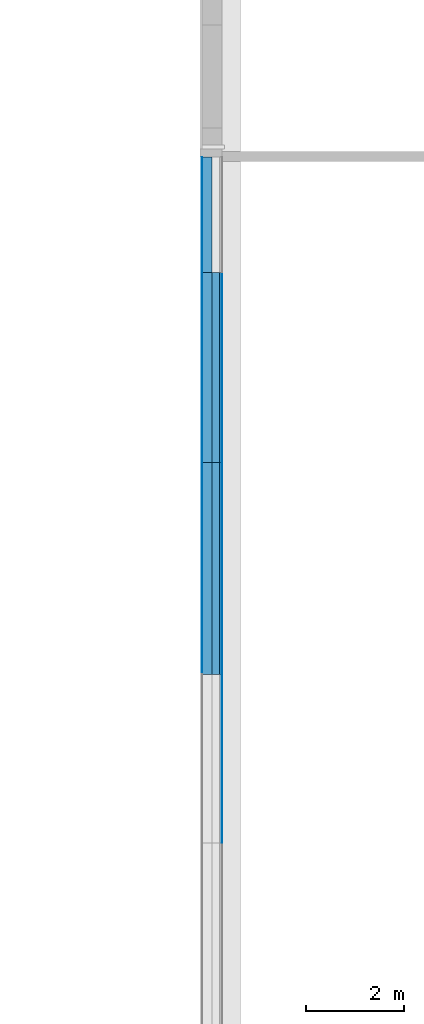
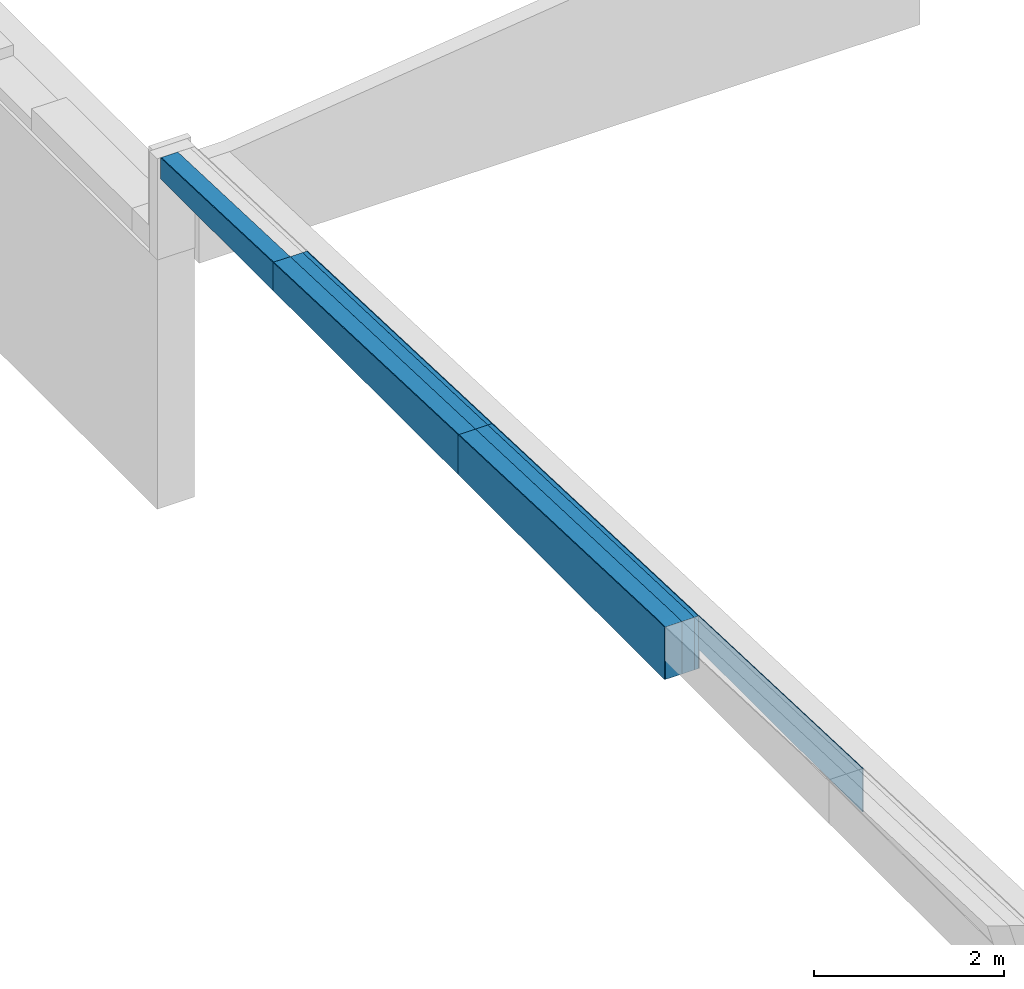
# One storey, part 14 of 17: 13 building element parts, 4 elements without a shape of their own.
"""IFC2X3 building model written with IfcOpenShell, lengths in millimetres."""

from ifc_helpers import new_model, entity, si_unit, converted_unit, derived_unit, money_unit, direction, frame, origin_with_axes, place, context, subcontext, project, spatial, polyline, outline, extrude, boolean, faceted_brep, material, type_object, element, aggregate, save


model = new_model("IFC2X3")

# Units and contexts
model_context = context("Model", 3, precision=0.01, world=origin_with_axes(), true_north=direction((0.0, 1.0)))
body_context = subcontext(model_context, "Body", "Model", "MODEL_VIEW")
ifc_project = project(units=[si_unit("LENGTHUNIT", "METRE", prefix="MILLI"), si_unit("AREAUNIT", "SQUARE_METRE"), si_unit("VOLUMEUNIT", "CUBIC_METRE"), converted_unit("PLANEANGLEUNIT", "DEGREE", entity("IfcPlaneAngleMeasure", 0.0174532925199), si_unit("PLANEANGLEUNIT", "RADIAN"), dimensions=[0, 0, 0, 0, 0, 0, 0]), si_unit("SOLIDANGLEUNIT", "STERADIAN"), money_unit("EUR"), converted_unit("TIMEUNIT", "Year", entity("IfcTimeMeasure", 31556926.0), si_unit("TIMEUNIT", "SECOND"), dimensions=[0, 0, 1, 0, 0, 0, 0]), si_unit("MASSUNIT", "GRAM", prefix="KILO"), si_unit("THERMODYNAMICTEMPERATUREUNIT", "DEGREE_CELSIUS"), si_unit("LUMINOUSINTENSITYUNIT", "LUMEN"), si_unit("ENERGYUNIT", "JOULE", prefix="MEGA"), derived_unit("THERMALCONDUCTANCEUNIT", [(si_unit("POWERUNIT", "WATT"), 1), (si_unit("LENGTHUNIT", "METRE"), -1), (si_unit("THERMODYNAMICTEMPERATUREUNIT", "KELVIN"), -1)]), derived_unit("SPECIFICHEATCAPACITYUNIT", [(si_unit("ENERGYUNIT", "JOULE"), 1), (si_unit("MASSUNIT", "GRAM", prefix="KILO"), -1), (si_unit("THERMODYNAMICTEMPERATUREUNIT", "KELVIN"), -1)]), derived_unit("MASSDENSITYUNIT", [(si_unit("MASSUNIT", "GRAM", prefix="KILO"), 1), (si_unit("VOLUMEUNIT", "CUBIC_METRE"), -1)])], contexts=[model_context])

# Site, building, storey
site_placement = place(None, origin_with_axes())
site = spatial("IfcSite", under=ifc_project, at=site_placement, Name="Puškini 31, Narva", CompositionType="ELEMENT")
building_placement = place(site_placement, origin_with_axes())
building = spatial("IfcBuilding", under=site, at=building_placement, Name="Narva Riigigümnaasium", CompositionType="ELEMENT")
storey_placement = place(building_placement, frame((0.0, 0.0, -6800.0), z_axis=(0.0, 0.0, 1.0), x_axis=(1.0, 0.0, 0.0)))
storey = spatial("IfcBuildingStorey", under=building, at=storey_placement, Name="0.korrus -6.8", CompositionType="ELEMENT", Elevation=-6800.0)

# Wall, building element part
wall_type = type_object("IfcWallType", Name="G-VS-02 420", PredefinedType="NOTDEFINED")
wall_1_placement = place(storey_placement, frame((54200.000001, 184040.0, 4630.0), z_axis=(0.0, 0.0, 1.0), x_axis=(0.0, -1.0, 0.0)))
wall_1 = element("IfcWall", 1, at=wall_1_placement, inside=storey, type_object=wall_type, Name="Sisesein")
ifc_material_1 = material(Name="Krohv")
building_element_part_1_placement = place(wall_1_placement, origin_with_axes())
building_element_part_1 = element("IfcBuildingElementPart", 2, at=building_element_part_1_placement, material=ifc_material_1, Name="Krohv", context=body_context, shape_type="CSG", body=[
    boolean("DIFFERENCE", boolean("DIFFERENCE", boolean("DIFFERENCE", boolean("DIFFERENCE", boolean("DIFFERENCE", extrude(outline(polyline([(0.0, 200.0), (3454.84872819, 200.0), (3454.84872819, 210.0), (0.0, 210.0), (0.0, 200.0)])), origin_with_axes(), (0.0, 0.0, 1.0), 577.017657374), faceted_brep([(3454.84872819, -200.0, 540.0), (2926.61023797, -200.0, 540.0), (0.0, -200.0, 427.970114), (0.0, -200.0, 577.017657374), (3454.84872819, -200.0, 577.017657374), (3454.84872819, -210.0, 540.0), (2926.61023797, -210.0, 540.0), (0.0, -210.0, 427.970114), (0.0, -210.0, 577.017657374), (3454.84872819, -210.0, 577.017657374)], [[[0, 1, 2, 3, 4]], [[1, 0, 5, 6]], [[7, 2, 1, 6]], [[2, 7, 8, 3]], [[3, 8, 9, 4]], [[5, 0, 4, 9]], [[6, 5, 9, 8, 7]]])), faceted_brep([(3454.84872819, 0.0, 560.220833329), (0.0, 0.0, 427.970114), (0.0, 0.0, 577.017657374), (3454.84872819, 0.0, 577.017657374), (0.0, -200.0, 427.970114), (3454.84872819, -200.0, 560.220833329), (2926.61023797, -200.0, 540.0), (0.0, -200.0, 577.017657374), (3454.84872819, -200.0, 577.017657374)], [[[0, 1, 2, 3]], [[4, 1, 0, 5, 6]], [[1, 4, 7, 2]], [[2, 7, 8, 3]], [[5, 0, 3, 8]], [[6, 5, 8, 7, 4]]])), faceted_brep([(3454.84872819, 150.0, 560.220833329), (0.0, 150.0, 427.970114), (0.0, 150.0, 577.017657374), (3454.84872819, 150.0, 577.017657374), (0.0, 0.0, 427.970114), (3454.84872819, 0.0, 560.220833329), (0.0, 0.0, 577.017657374), (3454.84872819, 0.0, 577.017657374)], [[[0, 1, 2, 3]], [[4, 1, 0, 5]], [[1, 4, 6, 2]], [[2, 6, 7, 3]], [[5, 0, 3, 7]], [[4, 5, 7, 6]]])), faceted_brep([(3454.84872819, 200.0, 560.220833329), (0.0, 200.0, 427.970114), (0.0, 200.0, 577.017657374), (3454.84872819, 200.0, 577.017657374), (0.0, 150.0, 427.970114), (3454.84872819, 150.0, 560.220833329), (0.0, 150.0, 577.017657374), (3454.84872819, 150.0, 577.017657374)], [[[0, 1, 2, 3]], [[4, 1, 0, 5]], [[1, 4, 6, 2]], [[2, 6, 7, 3]], [[5, 0, 3, 7]], [[4, 5, 7, 6]]])), faceted_brep([(3454.84872819, 210.0, 560.220833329), (0.0, 210.0, 427.970114), (0.0, 210.0, 577.017657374), (3454.84872819, 210.0, 577.017657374), (0.0, 200.0, 427.970114), (3454.84872819, 200.0, 560.220833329), (0.0, 200.0, 577.017657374), (3454.84872819, 200.0, 577.017657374)], [[[0, 1, 2, 3]], [[4, 1, 0, 5]], [[1, 4, 6, 2]], [[2, 6, 7, 3]], [[5, 0, 3, 7]], [[4, 5, 7, 6]]])),
])
aggregate(wall_1, [building_element_part_1])

# Wall, building element parts
wall_2_placement = place(storey_placement, frame((54200.000001, 188385.151272, 4380.0), z_axis=(0.0, 0.0, 1.0), x_axis=(0.0, -1.0, 0.0)))
wall_2 = element("IfcWall", 3, at=wall_2_placement, inside=storey, type_object=wall_type, Name="Sisesein")
ifc_material_2 = material(Name="Salto-siseviimistlus")
building_element_part_2_placement = place(wall_2_placement, origin_with_axes())
building_element_part_2 = element("IfcBuildingElementPart", 4, at=building_element_part_2_placement, material=ifc_material_2, Name="Salto-siseviimistlus", context=body_context, shape_type="CSG", body=[
    boolean("DIFFERENCE", boolean("DIFFERENCE", boolean("DIFFERENCE", boolean("DIFFERENCE", boolean("DIFFERENCE", extrude(outline(polyline([(0.0, -210.0), (4345.15127181, -210.0), (4345.15127181, -200.0), (0.0, -200.0), (0.0, -210.0)])), origin_with_axes(), (0.0, 0.0, 1.0), 673.142455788), faceted_brep([(4219.03604978, -200.0, 673.142455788), (0.0, -200.0, 511.638842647), (0.0, -200.0, 673.142455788), (0.0, -210.0, 511.638842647), (4219.03604978, -210.0, 673.142455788), (0.0, -210.0, 673.142455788)], [[[0, 1, 2]], [[3, 1, 0, 4]], [[1, 3, 5, 2]], [[4, 0, 2, 5]], [[3, 4, 5]]])), faceted_brep([(4219.03604978, 0.0, 673.142455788), (0.0, 0.0, 511.638842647), (0.0, 0.0, 673.142455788), (0.0, -200.0, 511.638842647), (4219.03604978, -200.0, 673.142455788), (0.0, -200.0, 673.142455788)], [[[0, 1, 2]], [[3, 1, 0, 4]], [[1, 3, 5, 2]], [[4, 0, 2, 5]], [[3, 4, 5]]])), faceted_brep([(4219.03604978, 150.0, 673.142455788), (0.0, 150.0, 511.638842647), (0.0, 150.0, 673.142455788), (0.0, 0.0, 511.638842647), (4219.03604978, 0.0, 673.142455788), (0.0, 0.0, 673.142455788)], [[[0, 1, 2]], [[3, 1, 0, 4]], [[1, 3, 5, 2]], [[4, 0, 2, 5]], [[3, 4, 5]]])), faceted_brep([(4219.03604978, 200.0, 673.142455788), (0.0, 200.0, 511.638842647), (0.0, 200.0, 673.142455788), (0.0, 150.0, 511.638842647), (4219.03604978, 150.0, 673.142455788), (0.0, 150.0, 673.142455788)], [[[0, 1, 2]], [[3, 1, 0, 4]], [[1, 3, 5, 2]], [[4, 0, 2, 5]], [[3, 4, 5]]])), faceted_brep([(4219.03604978, 210.0, 673.142455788), (0.0, 210.0, 511.638842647), (0.0, 210.0, 673.142455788), (0.0, 200.0, 511.638842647), (4219.03604978, 200.0, 673.142455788), (0.0, 200.0, 673.142455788)], [[[0, 1, 2]], [[3, 1, 0, 4]], [[1, 3, 5, 2]], [[4, 0, 2, 5]], [[3, 4, 5]]])),
])
ifc_material_3 = material(Name="Betoon element")
building_element_part_3_placement = place(wall_2_placement, origin_with_axes())
building_element_part_3 = element("IfcBuildingElementPart", 5, at=building_element_part_3_placement, material=ifc_material_3, Name="Betoon element", context=body_context, shape_type="CSG", body=[
    boolean("DIFFERENCE", boolean("DIFFERENCE", boolean("DIFFERENCE", boolean("DIFFERENCE", boolean("DIFFERENCE", extrude(outline(polyline([(0.0, -200.0), (4345.15127181, -200.0), (4345.15127181, 0.0), (0.0, 0.0), (0.0, -200.0)])), origin_with_axes(), (0.0, 0.0, 1.0), 673.142455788), faceted_brep([(4219.03604978, -200.0, 673.142455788), (0.0, -200.0, 511.638842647), (0.0, -200.0, 673.142455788), (0.0, -210.0, 511.638842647), (4219.03604978, -210.0, 673.142455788), (0.0, -210.0, 673.142455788)], [[[0, 1, 2]], [[3, 1, 0, 4]], [[1, 3, 5, 2]], [[4, 0, 2, 5]], [[3, 4, 5]]])), faceted_brep([(4219.03604978, 0.0, 673.142455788), (0.0, 0.0, 511.638842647), (0.0, 0.0, 673.142455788), (0.0, -200.0, 511.638842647), (4219.03604978, -200.0, 673.142455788), (0.0, -200.0, 673.142455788)], [[[0, 1, 2]], [[3, 1, 0, 4]], [[1, 3, 5, 2]], [[4, 0, 2, 5]], [[3, 4, 5]]])), faceted_brep([(4219.03604978, 150.0, 673.142455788), (0.0, 150.0, 511.638842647), (0.0, 150.0, 673.142455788), (0.0, 0.0, 511.638842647), (4219.03604978, 0.0, 673.142455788), (0.0, 0.0, 673.142455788)], [[[0, 1, 2]], [[3, 1, 0, 4]], [[1, 3, 5, 2]], [[4, 0, 2, 5]], [[3, 4, 5]]])), faceted_brep([(4219.03604978, 200.0, 673.142455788), (0.0, 200.0, 511.638842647), (0.0, 200.0, 673.142455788), (0.0, 150.0, 511.638842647), (4219.03604978, 150.0, 673.142455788), (0.0, 150.0, 673.142455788)], [[[0, 1, 2]], [[3, 1, 0, 4]], [[1, 3, 5, 2]], [[4, 0, 2, 5]], [[3, 4, 5]]])), faceted_brep([(4219.03604978, 210.0, 673.142455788), (0.0, 210.0, 511.638842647), (0.0, 210.0, 673.142455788), (0.0, 200.0, 511.638842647), (4219.03604978, 200.0, 673.142455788), (0.0, 200.0, 673.142455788)], [[[0, 1, 2]], [[3, 1, 0, 4]], [[1, 3, 5, 2]], [[4, 0, 2, 5]], [[3, 4, 5]]])),
])
ifc_material_4 = material(Name="Salto-PIR soojustus")
building_element_part_4_placement = place(wall_2_placement, origin_with_axes())
building_element_part_4 = element("IfcBuildingElementPart", 6, at=building_element_part_4_placement, material=ifc_material_4, Name="Salto-PIR soojustus", context=body_context, shape_type="CSG", body=[
    boolean("DIFFERENCE", boolean("DIFFERENCE", boolean("DIFFERENCE", boolean("DIFFERENCE", boolean("DIFFERENCE", extrude(outline(polyline([(0.0, 0.0), (4345.15127181, 0.0), (4345.15127181, 150.0), (0.0, 150.0), (0.0, 0.0)])), origin_with_axes(), (0.0, 0.0, 1.0), 673.142455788), faceted_brep([(4219.03604978, -200.0, 673.142455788), (0.0, -200.0, 511.638842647), (0.0, -200.0, 673.142455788), (0.0, -210.0, 511.638842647), (4219.03604978, -210.0, 673.142455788), (0.0, -210.0, 673.142455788)], [[[0, 1, 2]], [[3, 1, 0, 4]], [[1, 3, 5, 2]], [[4, 0, 2, 5]], [[3, 4, 5]]])), faceted_brep([(4219.03604978, 0.0, 673.142455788), (0.0, 0.0, 511.638842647), (0.0, 0.0, 673.142455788), (0.0, -200.0, 511.638842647), (4219.03604978, -200.0, 673.142455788), (0.0, -200.0, 673.142455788)], [[[0, 1, 2]], [[3, 1, 0, 4]], [[1, 3, 5, 2]], [[4, 0, 2, 5]], [[3, 4, 5]]])), faceted_brep([(4219.03604978, 150.0, 673.142455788), (0.0, 150.0, 511.638842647), (0.0, 150.0, 673.142455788), (0.0, 0.0, 511.638842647), (4219.03604978, 0.0, 673.142455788), (0.0, 0.0, 673.142455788)], [[[0, 1, 2]], [[3, 1, 0, 4]], [[1, 3, 5, 2]], [[4, 0, 2, 5]], [[3, 4, 5]]])), faceted_brep([(4219.03604978, 200.0, 673.142455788), (0.0, 200.0, 511.638842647), (0.0, 200.0, 673.142455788), (0.0, 150.0, 511.638842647), (4219.03604978, 150.0, 673.142455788), (0.0, 150.0, 673.142455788)], [[[0, 1, 2]], [[3, 1, 0, 4]], [[1, 3, 5, 2]], [[4, 0, 2, 5]], [[3, 4, 5]]])), faceted_brep([(4219.03604978, 210.0, 673.142455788), (0.0, 210.0, 511.638842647), (0.0, 210.0, 673.142455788), (0.0, 200.0, 511.638842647), (4219.03604978, 200.0, 673.142455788), (0.0, 200.0, 673.142455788)], [[[0, 1, 2]], [[3, 1, 0, 4]], [[1, 3, 5, 2]], [[4, 0, 2, 5]], [[3, 4, 5]]])),
])
building_element_part_5_placement = place(wall_2_placement, origin_with_axes())
building_element_part_5 = element("IfcBuildingElementPart", 7, at=building_element_part_5_placement, material=ifc_material_4, Name="Salto-PIR soojustus", context=body_context, shape_type="CSG", body=[
    boolean("DIFFERENCE", boolean("DIFFERENCE", boolean("DIFFERENCE", boolean("DIFFERENCE", boolean("DIFFERENCE", extrude(outline(polyline([(0.0, 150.0), (4345.15127181, 150.0), (4345.15127181, 200.0), (0.0, 200.0), (0.0, 150.0)])), origin_with_axes(), (0.0, 0.0, 1.0), 673.142455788), faceted_brep([(4219.03604978, -200.0, 673.142455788), (0.0, -200.0, 511.638842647), (0.0, -200.0, 673.142455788), (0.0, -210.0, 511.638842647), (4219.03604978, -210.0, 673.142455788), (0.0, -210.0, 673.142455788)], [[[0, 1, 2]], [[3, 1, 0, 4]], [[1, 3, 5, 2]], [[4, 0, 2, 5]], [[3, 4, 5]]])), faceted_brep([(4219.03604978, 0.0, 673.142455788), (0.0, 0.0, 511.638842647), (0.0, 0.0, 673.142455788), (0.0, -200.0, 511.638842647), (4219.03604978, -200.0, 673.142455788), (0.0, -200.0, 673.142455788)], [[[0, 1, 2]], [[3, 1, 0, 4]], [[1, 3, 5, 2]], [[4, 0, 2, 5]], [[3, 4, 5]]])), faceted_brep([(4219.03604978, 150.0, 673.142455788), (0.0, 150.0, 511.638842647), (0.0, 150.0, 673.142455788), (0.0, 0.0, 511.638842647), (4219.03604978, 0.0, 673.142455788), (0.0, 0.0, 673.142455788)], [[[0, 1, 2]], [[3, 1, 0, 4]], [[1, 3, 5, 2]], [[4, 0, 2, 5]], [[3, 4, 5]]])), faceted_brep([(4219.03604978, 200.0, 673.142455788), (0.0, 200.0, 511.638842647), (0.0, 200.0, 673.142455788), (0.0, 150.0, 511.638842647), (4219.03604978, 150.0, 673.142455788), (0.0, 150.0, 673.142455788)], [[[0, 1, 2]], [[3, 1, 0, 4]], [[1, 3, 5, 2]], [[4, 0, 2, 5]], [[3, 4, 5]]])), faceted_brep([(4219.03604978, 210.0, 673.142455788), (0.0, 210.0, 511.638842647), (0.0, 210.0, 673.142455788), (0.0, 200.0, 511.638842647), (4219.03604978, 200.0, 673.142455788), (0.0, 200.0, 673.142455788)], [[[0, 1, 2]], [[3, 1, 0, 4]], [[1, 3, 5, 2]], [[4, 0, 2, 5]], [[3, 4, 5]]])),
])
building_element_part_6_placement = place(wall_2_placement, origin_with_axes())
building_element_part_6 = element("IfcBuildingElementPart", 8, at=building_element_part_6_placement, material=ifc_material_1, Name="Krohv", context=body_context, shape_type="CSG", body=[
    boolean("DIFFERENCE", boolean("DIFFERENCE", boolean("DIFFERENCE", boolean("DIFFERENCE", boolean("DIFFERENCE", extrude(outline(polyline([(0.0, 200.0), (4345.15127181, 200.0), (4345.15127181, 210.0), (0.0, 210.0), (0.0, 200.0)])), origin_with_axes(), (0.0, 0.0, 1.0), 673.142455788), faceted_brep([(4219.03604978, -200.0, 673.142455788), (0.0, -200.0, 511.638842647), (0.0, -200.0, 673.142455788), (0.0, -210.0, 511.638842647), (4219.03604978, -210.0, 673.142455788), (0.0, -210.0, 673.142455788)], [[[0, 1, 2]], [[3, 1, 0, 4]], [[1, 3, 5, 2]], [[4, 0, 2, 5]], [[3, 4, 5]]])), faceted_brep([(4219.03604978, 0.0, 673.142455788), (0.0, 0.0, 511.638842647), (0.0, 0.0, 673.142455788), (0.0, -200.0, 511.638842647), (4219.03604978, -200.0, 673.142455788), (0.0, -200.0, 673.142455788)], [[[0, 1, 2]], [[3, 1, 0, 4]], [[1, 3, 5, 2]], [[4, 0, 2, 5]], [[3, 4, 5]]])), faceted_brep([(4219.03604978, 150.0, 673.142455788), (0.0, 150.0, 511.638842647), (0.0, 150.0, 673.142455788), (0.0, 0.0, 511.638842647), (4219.03604978, 0.0, 673.142455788), (0.0, 0.0, 673.142455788)], [[[0, 1, 2]], [[3, 1, 0, 4]], [[1, 3, 5, 2]], [[4, 0, 2, 5]], [[3, 4, 5]]])), faceted_brep([(4219.03604978, 200.0, 673.142455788), (0.0, 200.0, 511.638842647), (0.0, 200.0, 673.142455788), (0.0, 150.0, 511.638842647), (4219.03604978, 150.0, 673.142455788), (0.0, 150.0, 673.142455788)], [[[0, 1, 2]], [[3, 1, 0, 4]], [[1, 3, 5, 2]], [[4, 0, 2, 5]], [[3, 4, 5]]])), faceted_brep([(4219.03604978, 210.0, 673.142455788), (0.0, 210.0, 511.638842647), (0.0, 210.0, 673.142455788), (0.0, 200.0, 511.638842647), (4219.03604978, 200.0, 673.142455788), (0.0, 200.0, 673.142455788)], [[[0, 1, 2]], [[3, 1, 0, 4]], [[1, 3, 5, 2]], [[4, 0, 2, 5]], [[3, 4, 5]]])),
])
aggregate(wall_2, [building_element_part_2, building_element_part_3, building_element_part_4, building_element_part_5, building_element_part_6])

wall_3_placement = place(storey_placement, frame((54200.000001, 192285.151272, 4380.0), z_axis=(0.0, 0.0, 1.0), x_axis=(0.0, -1.0, 0.0)))
wall_3 = element("IfcWall", 9, at=wall_3_placement, inside=storey, type_object=wall_type, Name="Sisesein")
building_element_part_7_placement = place(wall_3_placement, origin_with_axes())
building_element_part_7 = element("IfcBuildingElementPart", 10, at=building_element_part_7_placement, material=ifc_material_2, Name="Salto-siseviimistlus", context=body_context, shape_type="CSG", body=[
    boolean("DIFFERENCE", boolean("DIFFERENCE", boolean("DIFFERENCE", boolean("DIFFERENCE", boolean("DIFFERENCE", extrude(outline(polyline([(0.0, -210.0), (3900.0, -210.0), (3900.0, -200.0), (0.0, -200.0), (0.0, -210.0)])), origin_with_axes(), (0.0, 0.0, 1.0), 519.267254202), faceted_brep([(3900.0, -200.0, 511.638842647), (0.0, -200.0, 362.347847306), (0.0, -200.0, 519.267254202), (3900.0, -200.0, 519.267254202), (0.0, -210.0, 362.347847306), (3900.0, -210.0, 511.638842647), (0.0, -210.0, 519.267254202), (3900.0, -210.0, 519.267254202)], [[[0, 1, 2, 3]], [[4, 1, 0, 5]], [[1, 4, 6, 2]], [[2, 6, 7, 3]], [[5, 0, 3, 7]], [[4, 5, 7, 6]]])), faceted_brep([(3900.0, 0.0, 511.638842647), (0.0, 0.0, 362.347847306), (0.0, 0.0, 519.267254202), (3900.0, 0.0, 519.267254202), (0.0, -200.0, 362.347847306), (3900.0, -200.0, 511.638842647), (0.0, -200.0, 519.267254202), (3900.0, -200.0, 519.267254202)], [[[0, 1, 2, 3]], [[4, 1, 0, 5]], [[1, 4, 6, 2]], [[2, 6, 7, 3]], [[5, 0, 3, 7]], [[4, 5, 7, 6]]])), faceted_brep([(3900.0, 150.0, 511.638842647), (0.0, 150.0, 362.347847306), (0.0, 150.0, 519.267254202), (3900.0, 150.0, 519.267254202), (0.0, 0.0, 362.347847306), (3900.0, 0.0, 511.638842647), (0.0, 0.0, 519.267254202), (3900.0, 0.0, 519.267254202)], [[[0, 1, 2, 3]], [[4, 1, 0, 5]], [[1, 4, 6, 2]], [[2, 6, 7, 3]], [[5, 0, 3, 7]], [[4, 5, 7, 6]]])), faceted_brep([(3900.0, 200.0, 511.638842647), (0.0, 200.0, 362.347847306), (0.0, 200.0, 519.267254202), (3900.0, 200.0, 519.267254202), (0.0, 150.0, 362.347847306), (3900.0, 150.0, 511.638842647), (0.0, 150.0, 519.267254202), (3900.0, 150.0, 519.267254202)], [[[0, 1, 2, 3]], [[4, 1, 0, 5]], [[1, 4, 6, 2]], [[2, 6, 7, 3]], [[5, 0, 3, 7]], [[4, 5, 7, 6]]])), faceted_brep([(3900.0, 210.0, 511.638842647), (0.0, 210.0, 362.347847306), (0.0, 210.0, 519.267254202), (3900.0, 210.0, 519.267254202), (0.0, 200.0, 362.347847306), (3900.0, 200.0, 511.638842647), (0.0, 200.0, 519.267254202), (3900.0, 200.0, 519.267254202)], [[[0, 1, 2, 3]], [[4, 1, 0, 5]], [[1, 4, 6, 2]], [[2, 6, 7, 3]], [[5, 0, 3, 7]], [[4, 5, 7, 6]]])),
])
building_element_part_8_placement = place(wall_3_placement, origin_with_axes())
building_element_part_8 = element("IfcBuildingElementPart", 11, at=building_element_part_8_placement, material=ifc_material_3, Name="Betoon element", context=body_context, shape_type="CSG", body=[
    boolean("DIFFERENCE", boolean("DIFFERENCE", boolean("DIFFERENCE", boolean("DIFFERENCE", boolean("DIFFERENCE", extrude(outline(polyline([(0.0, -200.0), (3900.0, -200.0), (3900.0, 0.0), (0.0, 0.0), (0.0, -200.0)])), origin_with_axes(), (0.0, 0.0, 1.0), 519.267254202), faceted_brep([(3900.0, -200.0, 511.638842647), (0.0, -200.0, 362.347847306), (0.0, -200.0, 519.267254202), (3900.0, -200.0, 519.267254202), (0.0, -210.0, 362.347847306), (3900.0, -210.0, 511.638842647), (0.0, -210.0, 519.267254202), (3900.0, -210.0, 519.267254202)], [[[0, 1, 2, 3]], [[4, 1, 0, 5]], [[1, 4, 6, 2]], [[2, 6, 7, 3]], [[5, 0, 3, 7]], [[4, 5, 7, 6]]])), faceted_brep([(3900.0, 0.0, 511.638842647), (0.0, 0.0, 362.347847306), (0.0, 0.0, 519.267254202), (3900.0, 0.0, 519.267254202), (0.0, -200.0, 362.347847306), (3900.0, -200.0, 511.638842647), (0.0, -200.0, 519.267254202), (3900.0, -200.0, 519.267254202)], [[[0, 1, 2, 3]], [[4, 1, 0, 5]], [[1, 4, 6, 2]], [[2, 6, 7, 3]], [[5, 0, 3, 7]], [[4, 5, 7, 6]]])), faceted_brep([(3900.0, 150.0, 511.638842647), (0.0, 150.0, 362.347847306), (0.0, 150.0, 519.267254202), (3900.0, 150.0, 519.267254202), (0.0, 0.0, 362.347847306), (3900.0, 0.0, 511.638842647), (0.0, 0.0, 519.267254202), (3900.0, 0.0, 519.267254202)], [[[0, 1, 2, 3]], [[4, 1, 0, 5]], [[1, 4, 6, 2]], [[2, 6, 7, 3]], [[5, 0, 3, 7]], [[4, 5, 7, 6]]])), faceted_brep([(3900.0, 200.0, 511.638842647), (0.0, 200.0, 362.347847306), (0.0, 200.0, 519.267254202), (3900.0, 200.0, 519.267254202), (0.0, 150.0, 362.347847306), (3900.0, 150.0, 511.638842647), (0.0, 150.0, 519.267254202), (3900.0, 150.0, 519.267254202)], [[[0, 1, 2, 3]], [[4, 1, 0, 5]], [[1, 4, 6, 2]], [[2, 6, 7, 3]], [[5, 0, 3, 7]], [[4, 5, 7, 6]]])), faceted_brep([(3900.0, 210.0, 511.638842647), (0.0, 210.0, 362.347847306), (0.0, 210.0, 519.267254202), (3900.0, 210.0, 519.267254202), (0.0, 200.0, 362.347847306), (3900.0, 200.0, 511.638842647), (0.0, 200.0, 519.267254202), (3900.0, 200.0, 519.267254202)], [[[0, 1, 2, 3]], [[4, 1, 0, 5]], [[1, 4, 6, 2]], [[2, 6, 7, 3]], [[5, 0, 3, 7]], [[4, 5, 7, 6]]])),
])
building_element_part_9_placement = place(wall_3_placement, origin_with_axes())
building_element_part_9 = element("IfcBuildingElementPart", 12, at=building_element_part_9_placement, material=ifc_material_4, Name="Salto-PIR soojustus", context=body_context, shape_type="CSG", body=[
    boolean("DIFFERENCE", boolean("DIFFERENCE", boolean("DIFFERENCE", boolean("DIFFERENCE", boolean("DIFFERENCE", extrude(outline(polyline([(0.0, 0.0), (3900.0, 0.0), (3900.0, 150.0), (0.0, 150.0), (0.0, 0.0)])), origin_with_axes(), (0.0, 0.0, 1.0), 519.267254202), faceted_brep([(3900.0, -200.0, 511.638842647), (0.0, -200.0, 362.347847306), (0.0, -200.0, 519.267254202), (3900.0, -200.0, 519.267254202), (0.0, -210.0, 362.347847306), (3900.0, -210.0, 511.638842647), (0.0, -210.0, 519.267254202), (3900.0, -210.0, 519.267254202)], [[[0, 1, 2, 3]], [[4, 1, 0, 5]], [[1, 4, 6, 2]], [[2, 6, 7, 3]], [[5, 0, 3, 7]], [[4, 5, 7, 6]]])), faceted_brep([(3900.0, 0.0, 511.638842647), (0.0, 0.0, 362.347847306), (0.0, 0.0, 519.267254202), (3900.0, 0.0, 519.267254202), (0.0, -200.0, 362.347847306), (3900.0, -200.0, 511.638842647), (0.0, -200.0, 519.267254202), (3900.0, -200.0, 519.267254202)], [[[0, 1, 2, 3]], [[4, 1, 0, 5]], [[1, 4, 6, 2]], [[2, 6, 7, 3]], [[5, 0, 3, 7]], [[4, 5, 7, 6]]])), faceted_brep([(3900.0, 150.0, 511.638842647), (0.0, 150.0, 362.347847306), (0.0, 150.0, 519.267254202), (3900.0, 150.0, 519.267254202), (0.0, 0.0, 362.347847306), (3900.0, 0.0, 511.638842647), (0.0, 0.0, 519.267254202), (3900.0, 0.0, 519.267254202)], [[[0, 1, 2, 3]], [[4, 1, 0, 5]], [[1, 4, 6, 2]], [[2, 6, 7, 3]], [[5, 0, 3, 7]], [[4, 5, 7, 6]]])), faceted_brep([(3900.0, 200.0, 511.638842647), (0.0, 200.0, 362.347847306), (0.0, 200.0, 519.267254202), (3900.0, 200.0, 519.267254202), (0.0, 150.0, 362.347847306), (3900.0, 150.0, 511.638842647), (0.0, 150.0, 519.267254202), (3900.0, 150.0, 519.267254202)], [[[0, 1, 2, 3]], [[4, 1, 0, 5]], [[1, 4, 6, 2]], [[2, 6, 7, 3]], [[5, 0, 3, 7]], [[4, 5, 7, 6]]])), faceted_brep([(3900.0, 210.0, 511.638842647), (0.0, 210.0, 362.347847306), (0.0, 210.0, 519.267254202), (3900.0, 210.0, 519.267254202), (0.0, 200.0, 362.347847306), (3900.0, 200.0, 511.638842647), (0.0, 200.0, 519.267254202), (3900.0, 200.0, 519.267254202)], [[[0, 1, 2, 3]], [[4, 1, 0, 5]], [[1, 4, 6, 2]], [[2, 6, 7, 3]], [[5, 0, 3, 7]], [[4, 5, 7, 6]]])),
])
building_element_part_10_placement = place(wall_3_placement, origin_with_axes())
building_element_part_10 = element("IfcBuildingElementPart", 13, at=building_element_part_10_placement, material=ifc_material_4, Name="Salto-PIR soojustus", context=body_context, shape_type="CSG", body=[
    boolean("DIFFERENCE", boolean("DIFFERENCE", boolean("DIFFERENCE", boolean("DIFFERENCE", boolean("DIFFERENCE", extrude(outline(polyline([(0.0, 150.0), (3900.0, 150.0), (3900.0, 200.0), (0.0, 200.0), (0.0, 150.0)])), origin_with_axes(), (0.0, 0.0, 1.0), 519.267254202), faceted_brep([(3900.0, -200.0, 511.638842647), (0.0, -200.0, 362.347847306), (0.0, -200.0, 519.267254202), (3900.0, -200.0, 519.267254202), (0.0, -210.0, 362.347847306), (3900.0, -210.0, 511.638842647), (0.0, -210.0, 519.267254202), (3900.0, -210.0, 519.267254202)], [[[0, 1, 2, 3]], [[4, 1, 0, 5]], [[1, 4, 6, 2]], [[2, 6, 7, 3]], [[5, 0, 3, 7]], [[4, 5, 7, 6]]])), faceted_brep([(3900.0, 0.0, 511.638842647), (0.0, 0.0, 362.347847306), (0.0, 0.0, 519.267254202), (3900.0, 0.0, 519.267254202), (0.0, -200.0, 362.347847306), (3900.0, -200.0, 511.638842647), (0.0, -200.0, 519.267254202), (3900.0, -200.0, 519.267254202)], [[[0, 1, 2, 3]], [[4, 1, 0, 5]], [[1, 4, 6, 2]], [[2, 6, 7, 3]], [[5, 0, 3, 7]], [[4, 5, 7, 6]]])), faceted_brep([(3900.0, 150.0, 511.638842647), (0.0, 150.0, 362.347847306), (0.0, 150.0, 519.267254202), (3900.0, 150.0, 519.267254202), (0.0, 0.0, 362.347847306), (3900.0, 0.0, 511.638842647), (0.0, 0.0, 519.267254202), (3900.0, 0.0, 519.267254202)], [[[0, 1, 2, 3]], [[4, 1, 0, 5]], [[1, 4, 6, 2]], [[2, 6, 7, 3]], [[5, 0, 3, 7]], [[4, 5, 7, 6]]])), faceted_brep([(3900.0, 200.0, 511.638842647), (0.0, 200.0, 362.347847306), (0.0, 200.0, 519.267254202), (3900.0, 200.0, 519.267254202), (0.0, 150.0, 362.347847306), (3900.0, 150.0, 511.638842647), (0.0, 150.0, 519.267254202), (3900.0, 150.0, 519.267254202)], [[[0, 1, 2, 3]], [[4, 1, 0, 5]], [[1, 4, 6, 2]], [[2, 6, 7, 3]], [[5, 0, 3, 7]], [[4, 5, 7, 6]]])), faceted_brep([(3900.0, 210.0, 511.638842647), (0.0, 210.0, 362.347847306), (0.0, 210.0, 519.267254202), (3900.0, 210.0, 519.267254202), (0.0, 200.0, 362.347847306), (3900.0, 200.0, 511.638842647), (0.0, 200.0, 519.267254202), (3900.0, 200.0, 519.267254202)], [[[0, 1, 2, 3]], [[4, 1, 0, 5]], [[1, 4, 6, 2]], [[2, 6, 7, 3]], [[5, 0, 3, 7]], [[4, 5, 7, 6]]])),
])
building_element_part_11_placement = place(wall_3_placement, origin_with_axes())
building_element_part_11 = element("IfcBuildingElementPart", 14, at=building_element_part_11_placement, material=ifc_material_1, Name="Krohv", context=body_context, shape_type="CSG", body=[
    boolean("DIFFERENCE", boolean("DIFFERENCE", boolean("DIFFERENCE", boolean("DIFFERENCE", boolean("DIFFERENCE", extrude(outline(polyline([(0.0, 200.0), (3900.0, 200.0), (3900.0, 210.0), (0.0, 210.0), (0.0, 200.0)])), origin_with_axes(), (0.0, 0.0, 1.0), 519.267254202), faceted_brep([(3900.0, -200.0, 511.638842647), (0.0, -200.0, 362.347847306), (0.0, -200.0, 519.267254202), (3900.0, -200.0, 519.267254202), (0.0, -210.0, 362.347847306), (3900.0, -210.0, 511.638842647), (0.0, -210.0, 519.267254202), (3900.0, -210.0, 519.267254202)], [[[0, 1, 2, 3]], [[4, 1, 0, 5]], [[1, 4, 6, 2]], [[2, 6, 7, 3]], [[5, 0, 3, 7]], [[4, 5, 7, 6]]])), faceted_brep([(3900.0, 0.0, 511.638842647), (0.0, 0.0, 362.347847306), (0.0, 0.0, 519.267254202), (3900.0, 0.0, 519.267254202), (0.0, -200.0, 362.347847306), (3900.0, -200.0, 511.638842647), (0.0, -200.0, 519.267254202), (3900.0, -200.0, 519.267254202)], [[[0, 1, 2, 3]], [[4, 1, 0, 5]], [[1, 4, 6, 2]], [[2, 6, 7, 3]], [[5, 0, 3, 7]], [[4, 5, 7, 6]]])), faceted_brep([(3900.0, 150.0, 511.638842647), (0.0, 150.0, 362.347847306), (0.0, 150.0, 519.267254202), (3900.0, 150.0, 519.267254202), (0.0, 0.0, 362.347847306), (3900.0, 0.0, 511.638842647), (0.0, 0.0, 519.267254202), (3900.0, 0.0, 519.267254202)], [[[0, 1, 2, 3]], [[4, 1, 0, 5]], [[1, 4, 6, 2]], [[2, 6, 7, 3]], [[5, 0, 3, 7]], [[4, 5, 7, 6]]])), faceted_brep([(3900.0, 200.0, 511.638842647), (0.0, 200.0, 362.347847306), (0.0, 200.0, 519.267254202), (3900.0, 200.0, 519.267254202), (0.0, 150.0, 362.347847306), (3900.0, 150.0, 511.638842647), (0.0, 150.0, 519.267254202), (3900.0, 150.0, 519.267254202)], [[[0, 1, 2, 3]], [[4, 1, 0, 5]], [[1, 4, 6, 2]], [[2, 6, 7, 3]], [[5, 0, 3, 7]], [[4, 5, 7, 6]]])), faceted_brep([(3900.0, 210.0, 511.638842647), (0.0, 210.0, 362.347847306), (0.0, 210.0, 519.267254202), (3900.0, 210.0, 519.267254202), (0.0, 200.0, 362.347847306), (3900.0, 200.0, 511.638842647), (0.0, 200.0, 519.267254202), (3900.0, 200.0, 519.267254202)], [[[0, 1, 2, 3]], [[4, 1, 0, 5]], [[1, 4, 6, 2]], [[2, 6, 7, 3]], [[5, 0, 3, 7]], [[4, 5, 7, 6]]])),
])
aggregate(wall_3, [building_element_part_7, building_element_part_8, building_element_part_9, building_element_part_10, building_element_part_11])

wall_4_placement = place(storey_placement, frame((54200.000001, 194650.0, 4380.0), z_axis=(0.0, 0.0, 1.0), x_axis=(0.0, -1.0, 0.0)))
wall_4 = element("IfcWall", 15, at=wall_4_placement, inside=storey, type_object=wall_type, Name="Sisesein")
building_element_part_12_placement = place(wall_4_placement, origin_with_axes())
building_element_part_12 = element("IfcBuildingElementPart", 16, at=building_element_part_12_placement, material=ifc_material_2, Name="Salto-siseviimistlus", context=body_context, shape_type="CSG", body=[
    boolean("DIFFERENCE", boolean("DIFFERENCE", boolean("DIFFERENCE", boolean("DIFFERENCE", boolean("DIFFERENCE", extrude(outline(polyline([(0.0, -210.0), (2364.84872856, -210.0), (2364.84872856, -200.0), (0.0, -200.0), (0.0, -210.0)])), origin_with_axes(), (0.0, 0.0, 1.0), 365.392052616), faceted_brep([(2364.84872856, -200.0, 362.347847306), (0.0, -200.0, 271.822047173), (0.0, -200.0, 365.392052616), (2364.84872856, -200.0, 365.392052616), (0.0, -210.0, 271.822047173), (2364.84872856, -210.0, 362.347847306), (0.0, -210.0, 365.392052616), (2364.84872856, -210.0, 365.392052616)], [[[0, 1, 2, 3]], [[4, 1, 0, 5]], [[1, 4, 6, 2]], [[2, 6, 7, 3]], [[5, 0, 3, 7]], [[4, 5, 7, 6]]])), faceted_brep([(2364.84872856, 0.0, 362.347847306), (0.0, 0.0, 271.822047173), (0.0, 0.0, 365.392052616), (2364.84872856, 0.0, 365.392052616), (0.0, -200.0, 271.822047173), (2364.84872856, -200.0, 362.347847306), (0.0, -200.0, 365.392052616), (2364.84872856, -200.0, 365.392052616)], [[[0, 1, 2, 3]], [[4, 1, 0, 5]], [[1, 4, 6, 2]], [[2, 6, 7, 3]], [[5, 0, 3, 7]], [[4, 5, 7, 6]]])), faceted_brep([(2364.84872856, 150.0, 362.347847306), (0.0, 150.0, 271.822047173), (0.0, 150.0, 365.392052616), (2364.84872856, 150.0, 365.392052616), (0.0, 0.0, 271.822047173), (2364.84872856, 0.0, 362.347847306), (0.0, 0.0, 365.392052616), (2364.84872856, 0.0, 365.392052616)], [[[0, 1, 2, 3]], [[4, 1, 0, 5]], [[1, 4, 6, 2]], [[2, 6, 7, 3]], [[5, 0, 3, 7]], [[4, 5, 7, 6]]])), faceted_brep([(2364.84872856, 200.0, 362.347847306), (0.0, 200.0, 271.822047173), (0.0, 200.0, 365.392052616), (2364.84872856, 200.0, 365.392052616), (0.0, 150.0, 271.822047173), (2364.84872856, 150.0, 362.347847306), (0.0, 150.0, 365.392052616), (2364.84872856, 150.0, 365.392052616)], [[[0, 1, 2, 3]], [[4, 1, 0, 5]], [[1, 4, 6, 2]], [[2, 6, 7, 3]], [[5, 0, 3, 7]], [[4, 5, 7, 6]]])), faceted_brep([(2364.84872856, 210.0, 362.347847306), (0.0, 210.0, 271.822047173), (0.0, 210.0, 365.392052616), (2364.84872856, 210.0, 365.392052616), (0.0, 200.0, 271.822047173), (2364.84872856, 200.0, 362.347847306), (0.0, 200.0, 365.392052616), (2364.84872856, 200.0, 365.392052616)], [[[0, 1, 2, 3]], [[4, 1, 0, 5]], [[1, 4, 6, 2]], [[2, 6, 7, 3]], [[5, 0, 3, 7]], [[4, 5, 7, 6]]])),
])
building_element_part_13_placement = place(wall_4_placement, origin_with_axes())
building_element_part_13 = element("IfcBuildingElementPart", 17, at=building_element_part_13_placement, material=ifc_material_3, Name="Betoon element", context=body_context, shape_type="CSG", body=[
    boolean("DIFFERENCE", boolean("DIFFERENCE", boolean("DIFFERENCE", boolean("DIFFERENCE", boolean("DIFFERENCE", extrude(outline(polyline([(0.0, -200.0), (2364.84872856, -200.0), (2364.84872856, 0.0), (0.0, 0.0), (0.0, -200.0)])), origin_with_axes(), (0.0, 0.0, 1.0), 365.392052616), faceted_brep([(2364.84872856, -200.0, 362.347847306), (0.0, -200.0, 271.822047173), (0.0, -200.0, 365.392052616), (2364.84872856, -200.0, 365.392052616), (0.0, -210.0, 271.822047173), (2364.84872856, -210.0, 362.347847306), (0.0, -210.0, 365.392052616), (2364.84872856, -210.0, 365.392052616)], [[[0, 1, 2, 3]], [[4, 1, 0, 5]], [[1, 4, 6, 2]], [[2, 6, 7, 3]], [[5, 0, 3, 7]], [[4, 5, 7, 6]]])), faceted_brep([(2364.84872856, 0.0, 362.347847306), (0.0, 0.0, 271.822047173), (0.0, 0.0, 365.392052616), (2364.84872856, 0.0, 365.392052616), (0.0, -200.0, 271.822047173), (2364.84872856, -200.0, 362.347847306), (0.0, -200.0, 365.392052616), (2364.84872856, -200.0, 365.392052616)], [[[0, 1, 2, 3]], [[4, 1, 0, 5]], [[1, 4, 6, 2]], [[2, 6, 7, 3]], [[5, 0, 3, 7]], [[4, 5, 7, 6]]])), faceted_brep([(2364.84872856, 150.0, 362.347847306), (0.0, 150.0, 271.822047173), (0.0, 150.0, 365.392052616), (2364.84872856, 150.0, 365.392052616), (0.0, 0.0, 271.822047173), (2364.84872856, 0.0, 362.347847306), (0.0, 0.0, 365.392052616), (2364.84872856, 0.0, 365.392052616)], [[[0, 1, 2, 3]], [[4, 1, 0, 5]], [[1, 4, 6, 2]], [[2, 6, 7, 3]], [[5, 0, 3, 7]], [[4, 5, 7, 6]]])), faceted_brep([(2364.84872856, 200.0, 362.347847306), (0.0, 200.0, 271.822047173), (0.0, 200.0, 365.392052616), (2364.84872856, 200.0, 365.392052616), (0.0, 150.0, 271.822047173), (2364.84872856, 150.0, 362.347847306), (0.0, 150.0, 365.392052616), (2364.84872856, 150.0, 365.392052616)], [[[0, 1, 2, 3]], [[4, 1, 0, 5]], [[1, 4, 6, 2]], [[2, 6, 7, 3]], [[5, 0, 3, 7]], [[4, 5, 7, 6]]])), faceted_brep([(2364.84872856, 210.0, 362.347847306), (0.0, 210.0, 271.822047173), (0.0, 210.0, 365.392052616), (2364.84872856, 210.0, 365.392052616), (0.0, 200.0, 271.822047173), (2364.84872856, 200.0, 362.347847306), (0.0, 200.0, 365.392052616), (2364.84872856, 200.0, 365.392052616)], [[[0, 1, 2, 3]], [[4, 1, 0, 5]], [[1, 4, 6, 2]], [[2, 6, 7, 3]], [[5, 0, 3, 7]], [[4, 5, 7, 6]]])),
])
aggregate(wall_4, [building_element_part_12, building_element_part_13])

save(model, "model.ifc")
